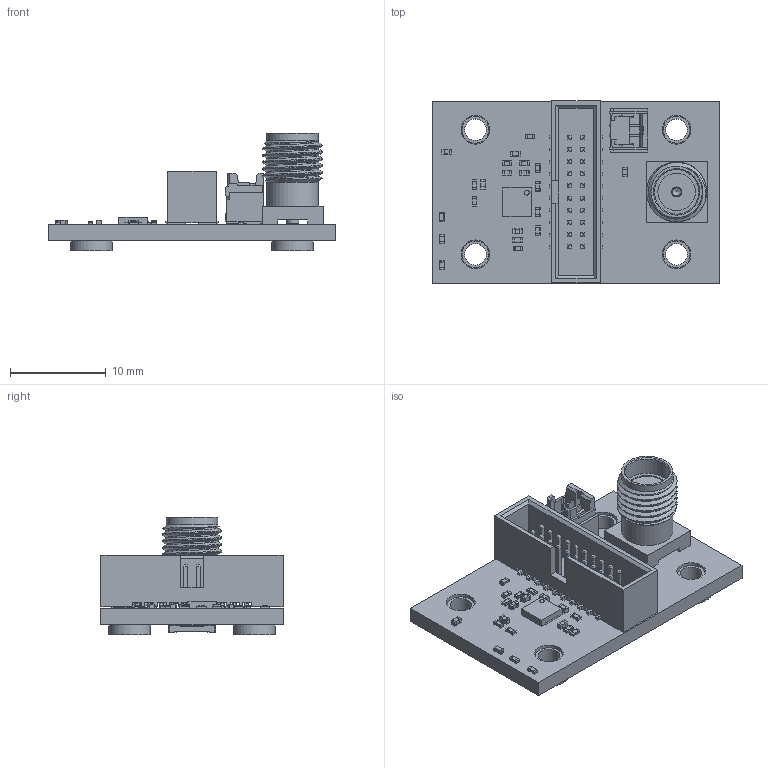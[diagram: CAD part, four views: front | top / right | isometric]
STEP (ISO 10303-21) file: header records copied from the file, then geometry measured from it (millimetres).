
FILE_DESCRIPTION(/* description */ ('Unknown','CAx-IF Rec.Pracs.---Representation and Presentation of Product Manufacturing Information (PMI)---4.0---2014-10-13','CAx-IF Rec.Pracs.---3D Tessellated Geometry---0.4---2014-09-14','2;1'),/* implementation_level */ '2;1');
FILE_NAME(/* name */ 'AMS-x1-SMA',/* time_stamp */ '2026-03-12T14:20:34+01:00',/* author */ ('Unknown'),/* organization */ ('Unknown'),/* preprocessor_version */ 'ST-DEVELOPER v18.104',/* originating_system */ 'Solid Edge',/* authorisation */ 'Unknown');
FILE_SCHEMA (('AP242_MANAGED_MODEL_BASED_3D_ENGINEERING_MIM_LF { 1 0 10303 442 1 1 4 }'));
Products named in the file (1): AMS-x1-SMA
Bounding box: 30 x 19 x 12.22 mm (x, y, z)
Volume: 1459.4 mm3; surface area: 3032.2 mm2
Topology: 7 solids, 7 shells, 2742 faces, 7337 edges, 4611 vertices
Faces by surface type: plane 2034, cylinder 570, sphere 60, cone 48, torus 28, bspline 2
Full cylindrical faces by diameter (mm): 0.5 x1, 0.965 x1, 1.035 x1, 1.27 x1, 2.25 x4, 2.8 x4, 3 x4, 3.912 x2, 4.35 x4, 4.644 x1, 5.359 x2
Entity records: 85906 total; most frequent: CARTESIAN_POINT 17103, ORIENTED_EDGE 14476, DIRECTION 13879, EDGE_CURVE 7238, LINE 5865, VECTOR 5865, VERTEX_POINT 4604, AXIS2_PLACEMENT_3D 4007
